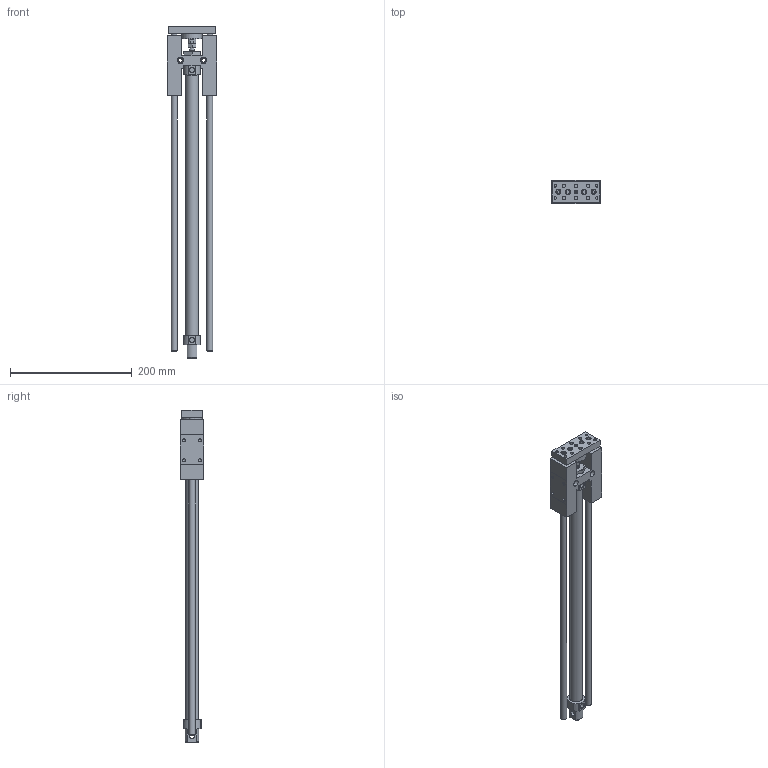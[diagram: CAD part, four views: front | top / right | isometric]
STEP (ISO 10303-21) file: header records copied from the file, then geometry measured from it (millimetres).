
FILE_DESCRIPTION((''),'2;1');
FILE_NAME('I:\3D電子目錄\氣缸\GHB(U)\GHB(U)\GHB(U)20\GHB(U)20x400.stp','2007-10-22T16:16:05',('Administrator'),(''),'Autodesk Inventor 11','Autodesk Inventor 11','');
FILE_SCHEMA(('AUTOMOTIVE_DESIGN { 1 0 10303 214 1 1 1 1 }'));
Length unit declared in the file: millimetre
Products named in the file (1): GHB(U)20
Bounding box: 82 x 38 x 546 mm (x, y, z)
Volume: 484055.6 mm3; surface area: 107849.9 mm2
Topology: 1 solids, 1 shells, 241 faces, 563 edges, 363 vertices
Faces by surface type: plane 132, bspline 40, cylinder 38, cone 31
Full cylindrical faces by diameter (mm): 4.917 x4, 5 x1, 6 x3, 6.6 x1, 7.5 x4, 8 x3, 8.5 x6, 10 x2, 13 x2, 21.2 x1, 33 x1
Entity records: 6788 total; most frequent: CARTESIAN_POINT 1686, DIRECTION 1006, ORIENTED_EDGE 964, EDGE_CURVE 482, EDGE_LOOP 372, AXIS2_PLACEMENT_3D 366, VERTEX_POINT 348, VECTOR 274
